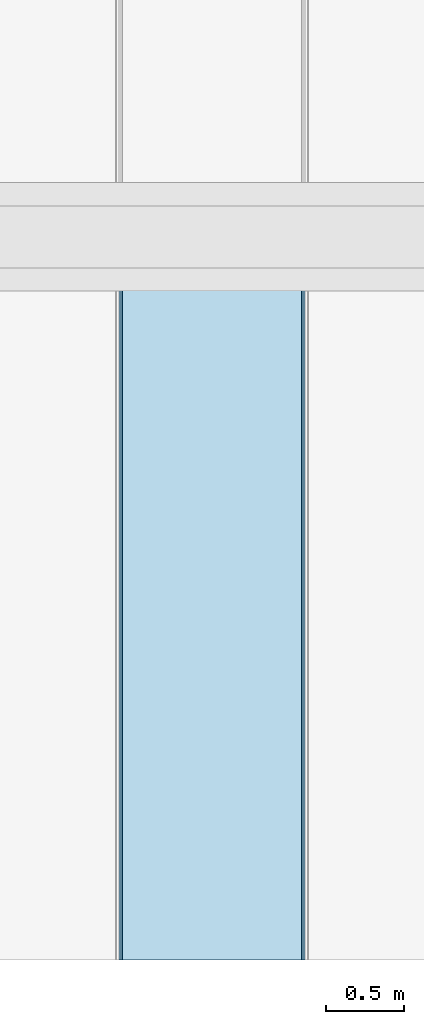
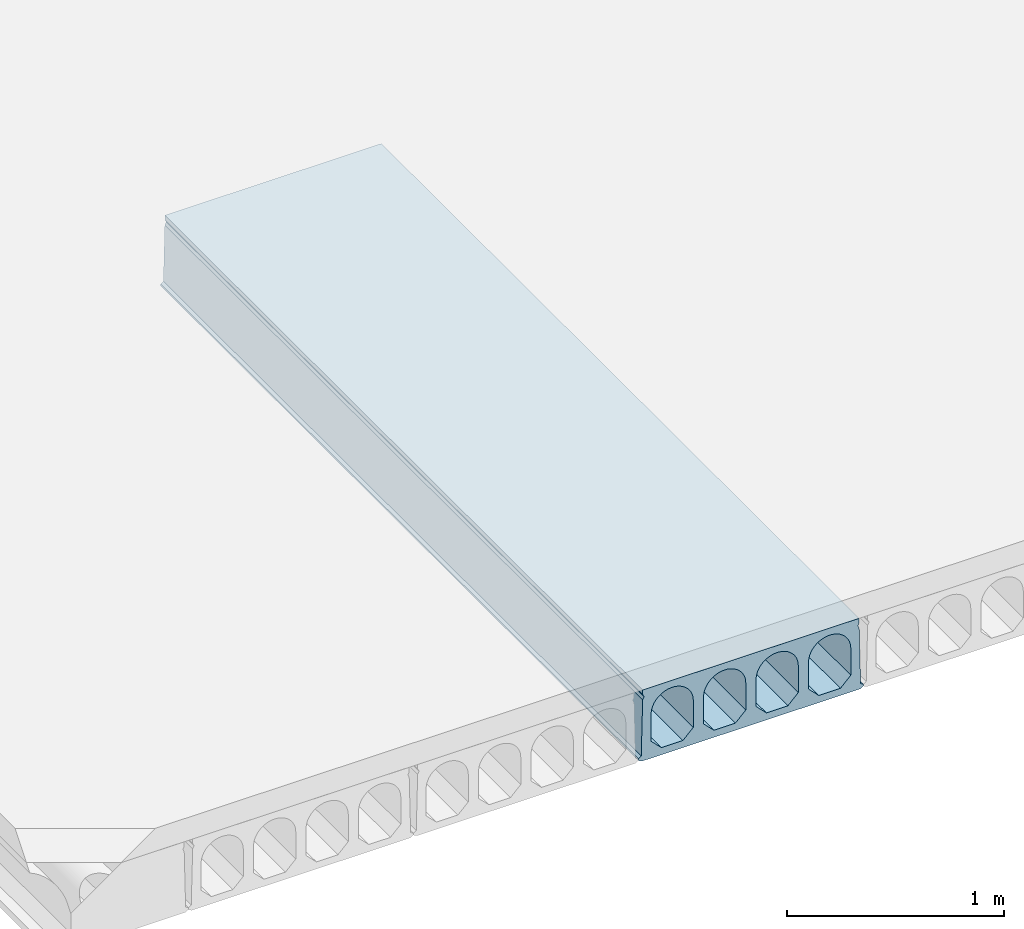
# One storey, part 41 of 98: 1 slab.
"""IFC2X3 building model written with IfcOpenShell, lengths in millimetres."""

import ifcopenshell
import ifcopenshell.guid

model = None  # the IFC model being written
_history = None  # IfcOwnerHistory: only IFC2X3 demands one
_inside = {}  # id of a spatial element -> (the spatial element, [elements in it])
_under = {}  # id of a project, library or spatial element -> (it, [spatial elements below it])
_declared = {}  # id of a project -> (the project, [libraries it declares])
_typed = {}  # id of a type object -> (the type object, [elements of that type])
_made_of = {}  # id of a material, layer set ... -> (it, [elements and type objects made of it])


def new_model(schema):
    """Start an empty IFC model of exactly this schema.

    Asked for "IFC4X3", IfcOpenShell would pick the latest addendum, in which some entities
    have other attributes; the version numbers below select the first issue.
    IFC2X3 requires an IfcOwnerHistory on every rooted entity: one is made here for all.
    """
    global model, _history
    if schema == "IFC4X3":
        model = ifcopenshell.file(schema_version=(4, 3, 0, 0))
    else:
        model = ifcopenshell.file(schema=schema)
    _inside.clear()
    _under.clear()
    _declared.clear()
    _typed.clear()
    _made_of.clear()
    _history = None
    if model.schema == "IFC2X3":
        org = make("IfcOrganization", Name="unknown")
        user = make(
            "IfcPersonAndOrganization",
            ThePerson=make("IfcPerson", FamilyName="unknown"),
            TheOrganization=org,
        )
        app = make(
            "IfcApplication",
            ApplicationDeveloper=org,
            Version="unknown",
            ApplicationFullName="unknown",
            ApplicationIdentifier="unknown",
        )
        _history = make(
            "IfcOwnerHistory",
            OwningUser=user,
            OwningApplication=app,
            ChangeAction="ADDED",
            CreationDate=0,
        )
    return model


def make(cls, **values):
    """One entity of the class cls with the attributes given. An attribute that is None is left unset."""
    return model.create_entity(
        cls, **{name: value for name, value in values.items() if value is not None}
    )


def entity(cls, *values):
    """Any entity or typed value of the class cls, its attributes in the order of the schema. None: left unset."""
    e = model.create_entity(cls)
    for i, value in enumerate(values):
        if value is not None:
            e[i] = value
    return e


def rooted(cls, **values):
    """An entity with a GlobalId (a new one), such as an element, a storey or a relation."""
    return make(cls, GlobalId=ifcopenshell.guid.new(), OwnerHistory=_history, **values)


def si_unit(unit_type, name, prefix=None):
    """IfcSIUnit, for example si_unit("LENGTHUNIT", "METRE", prefix="MILLI")."""
    return make("IfcSIUnit", UnitType=unit_type, Prefix=prefix, Name=name)


def converted_unit(unit_type, name, factor, base, dimensions=None, offset=None):
    """IfcConversionBasedUnit, such as the inch: factor (a typed value) times the base unit."""
    return make(
        "IfcConversionBasedUnit"
        if offset is None
        else "IfcConversionBasedUnitWithOffset",
        ConversionOffset=offset,
        Dimensions=None
        if dimensions is None
        else entity("IfcDimensionalExponents", *dimensions),
        UnitType=unit_type,
        Name=name,
        ConversionFactor=make(
            "IfcMeasureWithUnit", ValueComponent=factor, UnitComponent=base
        ),
    )


def derived_unit(unit_type, elements):
    """IfcDerivedUnit: a product of units, each with its exponent."""
    return make(
        "IfcDerivedUnit",
        Elements=[
            make("IfcDerivedUnitElement", Unit=unit, Exponent=power)
            for unit, power in elements
        ],
        UnitType=unit_type,
    )


def assignment(units):
    """IfcUnitAssignment: the units of a project."""
    return None if units is None else make("IfcUnitAssignment", Units=units)


def point(xyz):
    """IfcCartesianPoint."""
    return None if xyz is None else make("IfcCartesianPoint", Coordinates=xyz)


def direction(xyz):
    """IfcDirection."""
    return None if xyz is None else make("IfcDirection", DirectionRatios=xyz)


def frame(location, z_axis=None, x_axis=None):
    """IfcAxis2Placement3D, a coordinate frame: its origin and axes. An axis left out is left unset."""
    return make(
        "IfcAxis2Placement3D",
        Location=point(location),
        Axis=direction(z_axis),
        RefDirection=direction(x_axis),
    )


def origin_with_axes():
    """The frame at (0, 0, 0) with the z axis (0, 0, 1) and the x axis (1, 0, 0) written out."""
    return frame((0.0, 0.0, 0.0), z_axis=(0.0, 0.0, 1.0), x_axis=(1.0, 0.0, 0.0))


def place(relative_to, where):
    """IfcLocalPlacement: puts the frame where relative to a parent placement (None: the world)."""
    return make(
        "IfcLocalPlacement", PlacementRelTo=relative_to, RelativePlacement=where
    )


def context(
    kind, dimensions, precision=None, world=None, true_north=None, identifier=None
):
    """IfcGeometricRepresentationContext, for example the 3D "Model" context."""
    return make(
        "IfcGeometricRepresentationContext",
        ContextIdentifier=identifier,
        ContextType=kind,
        CoordinateSpaceDimension=dimensions,
        Precision=precision,
        WorldCoordinateSystem=world,
        TrueNorth=true_north,
    )


def subcontext(parent, identifier, kind, view, scale=None):
    """IfcGeometricRepresentationSubContext, for example "Body" below "Model"."""
    return make(
        "IfcGeometricRepresentationSubContext",
        ContextIdentifier=identifier,
        ContextType=kind,
        ParentContext=parent,
        TargetScale=scale,
        TargetView=view,
    )


def project(units=None, contexts=None):
    """IfcProject with its units and contexts."""
    return rooted(
        "IfcProject",
        Name="project",
        RepresentationContexts=contexts,
        UnitsInContext=assignment(units),
    )


def spatial(cls, under=None, at=None, **own):
    """A site, building, storey or space (cls), placed at a placement, below another one or the project."""
    s = rooted(cls, ObjectPlacement=at, **own)
    if under is not None:
        _under.setdefault(under.id(), (under, []))[1].append(s)
    return s


def faces_of(points, faces, orient=None, outer=None):
    """IfcFace entities. A face is a list of loops; a loop is a list of indices into points, from 0.

    orient and outer hold one flag for each loop. By default every Orientation is true, the
    first loop of a face is its IfcFaceOuterBound and the others are IfcFaceBound.
    """
    made = []
    for i, loops in enumerate(faces):
        bounds = []
        for j, loop in enumerate(loops):
            is_outer = j == 0 if outer is None else outer[i][j]
            bounds.append(
                make(
                    "IfcFaceOuterBound" if is_outer else "IfcFaceBound",
                    Bound=make("IfcPolyLoop", Polygon=[points[k] for k in loop]),
                    Orientation=True if orient is None else orient[i][j],
                )
            )
        made.append(make("IfcFace", Bounds=bounds))
    return made


def faceted_brep(points, faces, orient=None, outer=None, voids=None):
    """IfcFacetedBrep: a solid bounded by flat faces; with voids (closed shells), ...WithVoids."""
    shared = [point(p) for p in points]
    hull = make("IfcClosedShell", CfsFaces=faces_of(shared, faces, orient, outer))
    if voids is None:
        return make("IfcFacetedBrep", Outer=hull)
    return make(
        "IfcFacetedBrepWithVoids",
        Outer=hull,
        Voids=[
            make(cls, CfsFaces=faces_of(shared, fs, o, b)) for cls, fs, o, b in voids
        ],
    )


def shape(context_of_items, identifier, shape_type, items):
    """IfcShapeRepresentation: the items that make up one representation, for example the "Body"."""
    return make(
        "IfcShapeRepresentation",
        ContextOfItems=context_of_items,
        RepresentationIdentifier=identifier,
        RepresentationType=shape_type,
        Items=items,
    )


def made_of(thing, what):
    """Note that an element or type object is made of a material, layer set ...; save() writes the relation."""
    if what is not None:
        _made_of.setdefault(what.id(), (what, []))[1].append(thing)
    return thing


def type_object(cls, material=None, **own):
    """A type object (cls), such as IfcWallType, which elements share."""
    return made_of(rooted(cls, **own), material)


def element(
    cls,
    number,
    at=None,
    inside=None,
    cuts=None,
    type_object=None,
    material=None,
    context=None,
    identifier="Body",
    shape_type=None,
    held_by="IfcProductDefinitionShape",
    body=None,
    shapes=None,
    **own,
):
    """One element of the class cls, such as IfcWall. Its Tag is "e" and its number.

    at: its placement. inside: the storey or other place that contains it. cuts: it is an
    opening in that element (IfcRelVoidsElement). A single representation is given by context,
    identifier, shape_type and body (its items); several are given by shapes. held_by: the class
    of the entity that holds the representations. save() writes the other relations.
    """
    e = rooted(cls, Tag="e%d" % number, ObjectPlacement=at, **own)
    if body is not None:
        shapes = [shape(context, identifier, shape_type, body)]
    if shapes is not None:
        e.Representation = make(held_by, Representations=shapes)
    if inside is not None:
        _inside.setdefault(inside.id(), (inside, []))[1].append(e)
    if cuts is not None:
        rooted(
            "IfcRelVoidsElement", RelatingBuildingElement=cuts, RelatedOpeningElement=e
        )
    if type_object is not None:
        _typed.setdefault(type_object.id(), (type_object, []))[1].append(e)
    return made_of(e, material)


def aggregate(whole, parts):
    """IfcRelAggregates: a whole, such as a stair, and the parts it consists of."""
    return rooted("IfcRelAggregates", RelatingObject=whole, RelatedObjects=parts)


def save(model, path):
    """Write the relations noted so far, then the file.

    IfcRelAggregates (storeys below a building ...), IfcRelContainedInSpatialStructure (elements
    in a storey), IfcRelDefinesByType, IfcRelAssociatesMaterial and IfcRelDeclares: one each for
    every whole, place, type object, material and project.
    """
    for whole, parts in _under.values():
        aggregate(whole, parts)
    for where, things in _inside.values():
        rooted(
            "IfcRelContainedInSpatialStructure",
            RelatedElements=things,
            RelatingStructure=where,
        )
    for kind, things in _typed.values():
        rooted("IfcRelDefinesByType", RelatedObjects=things, RelatingType=kind)
    for what, things in _made_of.values():
        rooted("IfcRelAssociatesMaterial", RelatedObjects=things, RelatingMaterial=what)
    for by, libraries in _declared.values():
        rooted("IfcRelDeclares", RelatingContext=by, RelatedDefinitions=libraries)
    model.write(path)


model = new_model("IFC2X3")

# Units and contexts
model_context = context("Model", 3, precision=0.01, world=frame((0.0, 4.29681676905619e-09, 0.0)), true_north=direction((4.01073788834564e-13, 1.0)))
plan_context = context("Plan", 3, precision=0.01, world=frame((0.0, 4.29681676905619e-09, 0.0)), true_north=direction((4.01073788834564e-13, 1.0)))
body_context = subcontext(model_context, "Body", "Model", "MODEL_VIEW")
ifc_project = project(units=[converted_unit("PLANEANGLEUNIT", "DEGREE", entity("IfcPositiveLengthMeasure", 0.0174532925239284), si_unit("PLANEANGLEUNIT", "RADIAN"), dimensions=[0, 0, 0, 0, 0, 0, 0]), si_unit("AREAUNIT", "SQUARE_METRE"), si_unit("LENGTHUNIT", "METRE", prefix="MILLI"), si_unit("MASSUNIT", "GRAM", prefix="KILO"), si_unit("POWERUNIT", "WATT"), si_unit("PRESSUREUNIT", "PASCAL"), si_unit("FORCEUNIT", "NEWTON", prefix="KILO"), si_unit("ELECTRICCURRENTUNIT", "AMPERE"), si_unit("THERMODYNAMICTEMPERATUREUNIT", "DEGREE_CELSIUS"), si_unit("TIMEUNIT", "SECOND"), si_unit("VOLUMEUNIT", "CUBIC_METRE"), derived_unit("LINEARVELOCITYUNIT", [(si_unit("LENGTHUNIT", "METRE"), 1), (si_unit("TIMEUNIT", "SECOND"), -1)]), derived_unit("VOLUMETRICFLOWRATEUNIT", [(si_unit("VOLUMEUNIT", "CUBIC_METRE"), 1), (si_unit("TIMEUNIT", "SECOND"), -1)]), derived_unit("THERMALTRANSMITTANCEUNIT", [(si_unit("POWERUNIT", "WATT"), 1), (si_unit("THERMODYNAMICTEMPERATUREUNIT", "KELVIN"), -1), (si_unit("AREAUNIT", "SQUARE_METRE"), -1)])], contexts=[model_context, plan_context])

# Site, building, storey
site_placement = place(None, frame((0.0, -4.29681676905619e-09, 0.0), z_axis=(0.0, 0.0, 1.0), x_axis=(1.0, 0.0, 0.0)))
site = spatial("IfcSite", under=ifc_project, at=site_placement, Name="Gardermoen", CompositionType="ELEMENT")
building_placement = place(site_placement, frame((0.0, 4.29681676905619e-09, 0.0), z_axis=(0.0, 0.0, 1.0), x_axis=(1.0, 0.0, 0.0)))
building = spatial("IfcBuilding", under=site, at=building_placement, Name="TS", CompositionType="ELEMENT")
storey_placement = place(building_placement, origin_with_axes())
storey = spatial("IfcBuildingStorey", under=building, at=storey_placement, Name="D", CompositionType="ELEMENT", Elevation=0.0)

# Slab
slab_type = type_object("IfcSlabType", Name="HD400", PredefinedType="NOTDEFINED")
slab_placement = place(storey_placement, frame((517599.999766, 396739.995625, 203600.0), z_axis=(0.0, 0.0, 1.0), x_axis=(0.0, 1.0, 0.0)))
element("IfcSlab", 1, at=slab_placement, inside=storey, type_object=slab_type, Name="HULLDEKKE", ObjectType="HD400", PredefinedType="FLOOR", context=body_context, shape_type="Brep", body=[
    faceted_brep([(4105.68103395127, 600.0, -180.0), (4105.68103395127, 600.0, -190.0), (8520.0, 600.0, -190.0), (8520.0, 600.0, -180.0), (4105.68103395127, 585.0, -170.0), (8520.0, 585.0, -170.0), (4105.68103395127, 577.5, 145.0), (8520.0, 577.5, 145.0), (4105.68103395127, 570.0, 160.0), (8520.0, 570.0, 160.0), (4105.68103395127, 577.5, 175.0), (8520.0, 577.5, 175.0), (4105.68103395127, 577.5, 200.0), (8520.0, 577.5, 200.0), (4105.68103395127, -577.5, 200.0), (8520.0, -577.5, 200.0), (4105.68103395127, -577.5, 175.0), (8520.0, -577.5, 175.0), (4105.68103395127, -570.0, 160.0), (8520.0, -570.0, 160.0), (4105.68103395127, -577.5, 145.0), (8520.0, -577.5, 145.0), (4105.68103395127, -585.0, -170.0), (8520.0, -585.0, -170.0), (4105.68103395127, -600.0, -180.0), (8520.0, -600.0, -180.0), (4105.68103395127, -600.0, -190.0), (8520.0, -600.0, -190.0), (4105.68103395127, -583.380004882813, -200.0), (8520.0, -583.380004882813, -200.0), (4105.68103395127, 583.380004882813, -200.0), (8520.0, 583.380004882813, -200.0), (4105.68103395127, -477.5, -160.0), (4105.68103395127, -362.5, -160.0), (8520.0, -362.5, -160.0), (8520.0, -477.5, -160.0), (4105.68103395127, -532.5, -105.0), (8520.0, -532.5, -105.0), (4105.68103395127, -532.5, 47.5), (8520.0, -532.5, 47.5), (4105.68103395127, -532.115755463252, 56.7901763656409), (8520.0, -532.115755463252, 56.7901763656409), (4105.68103395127, -530.965646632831, 66.0168914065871), (8520.0, -530.965646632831, 66.0168914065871), (4105.68103395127, -529.057529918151, 75.1171173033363), (8520.0, -529.057529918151, 75.1171173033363), (4105.68103395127, -526.404439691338, 84.028690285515), (8520.0, -526.404439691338, 84.028690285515), (4105.68103395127, -523.024499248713, 92.6907352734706), (8520.0, -523.024499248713, 92.6907352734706), (4105.68103395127, -518.940797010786, 101.044081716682), (8520.0, -518.940797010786, 101.044081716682), (4105.68103395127, -514.181228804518, 109.031667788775), (8520.0, -514.181228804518, 109.031667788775), (4105.68103395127, -508.778307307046, 116.598930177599), (8520.0, -508.778307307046, 116.598930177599), (4105.68103395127, -502.768939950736, 123.694176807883), (8520.0, -502.768939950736, 123.694176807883), (4105.68103395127, -496.194176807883, 130.268939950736), (8520.0, -496.194176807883, 130.268939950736), (4105.68103395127, -489.098930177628, 136.278307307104), (8520.0, -489.098930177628, 136.278307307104), (4105.68103395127, -481.531667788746, 141.681228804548), (8520.0, -481.531667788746, 141.681228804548), (4105.68103395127, -473.544081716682, 146.440797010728), (8520.0, -473.544081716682, 146.440797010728), (4105.68103395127, -465.190735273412, 150.524499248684), (8520.0, -465.190735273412, 150.524499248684), (4105.68103395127, -456.528690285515, 153.904439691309), (8520.0, -456.528690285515, 153.904439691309), (4105.68103395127, -447.617117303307, 156.55752991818), (8520.0, -447.617117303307, 156.55752991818), (4105.68103395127, -438.516891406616, 158.465646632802), (8520.0, -438.516891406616, 158.465646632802), (4105.68103395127, -429.290176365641, 159.615755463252), (8520.0, -429.290176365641, 159.615755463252), (4105.68103395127, -420.0, 160.0), (8520.0, -420.0, 160.0), (4105.68103395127, -410.709823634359, 159.615755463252), (8520.0, -410.709823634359, 159.615755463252), (4105.68103395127, -401.483108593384, 158.465646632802), (8520.0, -401.483108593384, 158.465646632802), (4105.68103395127, -392.382882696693, 156.55752991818), (8520.0, -392.382882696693, 156.55752991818), (4105.68103395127, -383.471309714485, 153.904439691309), (8520.0, -383.471309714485, 153.904439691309), (4105.68103395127, -374.809264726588, 150.524499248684), (8520.0, -374.809264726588, 150.524499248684), (4105.68103395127, -366.455918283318, 146.440797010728), (8520.0, -366.455918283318, 146.440797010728), (4105.68103395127, -358.468332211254, 141.681228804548), (8520.0, -358.468332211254, 141.681228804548), (4105.68103395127, -350.901069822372, 136.278307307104), (8520.0, -350.901069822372, 136.278307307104), (4105.68103395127, -343.805823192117, 130.268939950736), (8520.0, -343.805823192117, 130.268939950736), (4105.68103395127, -337.231060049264, 123.694176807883), (8520.0, -337.231060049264, 123.694176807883), (4105.68103395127, -331.221692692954, 116.598930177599), (8520.0, -331.221692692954, 116.598930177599), (4105.68103395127, -325.818771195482, 109.031667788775), (8520.0, -325.818771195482, 109.031667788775), (4105.68103395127, -321.059202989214, 101.044081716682), (8520.0, -321.059202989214, 101.044081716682), (4105.68103395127, -316.975500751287, 92.6907352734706), (8520.0, -316.975500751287, 92.6907352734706), (4105.68103395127, -313.595560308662, 84.028690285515), (8520.0, -313.595560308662, 84.028690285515), (4105.68103395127, -310.942470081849, 75.1171173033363), (8520.0, -310.942470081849, 75.1171173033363), (4105.68103395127, -309.034353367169, 66.0168914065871), (8520.0, -309.034353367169, 66.0168914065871), (4105.68103395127, -307.884244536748, 56.7901763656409), (8520.0, -307.884244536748, 56.7901763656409), (4105.68103395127, -307.5, 47.5), (8520.0, -307.5, 47.5), (4105.68103395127, -307.5, -105.0), (8520.0, -307.5, -105.0), (4105.68103395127, -197.5, -160.0), (4105.68103395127, -82.5, -160.0), (8520.0, -82.5, -160.0), (8520.0, -197.5, -160.0), (4105.68103395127, -252.5, -105.0), (8520.0, -252.5, -105.0), (4105.68103395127, -252.5, 47.5), (8520.0, -252.5, 47.5), (4105.68103395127, -252.115755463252, 56.7901763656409), (8520.0, -252.115755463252, 56.7901763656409), (4105.68103395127, -250.965646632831, 66.0168914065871), (8520.0, -250.965646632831, 66.0168914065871), (4105.68103395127, -249.057529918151, 75.1171173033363), (8520.0, -249.057529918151, 75.1171173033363), (4105.68103395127, -246.404439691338, 84.028690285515), (8520.0, -246.404439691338, 84.028690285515), (4105.68103395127, -243.024499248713, 92.6907352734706), (8520.0, -243.024499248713, 92.6907352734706), (4105.68103395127, -238.940797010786, 101.044081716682), (8520.0, -238.940797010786, 101.044081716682), (4105.68103395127, -234.181228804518, 109.031667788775), (8520.0, -234.181228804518, 109.031667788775), (4105.68103395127, -228.778307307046, 116.598930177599), (8520.0, -228.778307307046, 116.598930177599), (4105.68103395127, -222.768939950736, 123.694176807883), (8520.0, -222.768939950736, 123.694176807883), (4105.68103395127, -216.194176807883, 130.268939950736), (8520.0, -216.194176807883, 130.268939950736), (4105.68103395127, -209.098930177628, 136.278307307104), (8520.0, -209.098930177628, 136.278307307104), (4105.68103395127, -201.531667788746, 141.681228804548), (8520.0, -201.531667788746, 141.681228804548), (4105.68103395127, -193.544081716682, 146.440797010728), (8520.0, -193.544081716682, 146.440797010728), (4105.68103395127, -185.190735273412, 150.524499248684), (8520.0, -185.190735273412, 150.524499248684), (4105.68103395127, -176.528690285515, 153.904439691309), (8520.0, -176.528690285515, 153.904439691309), (4105.68103395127, -167.617117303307, 156.55752991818), (8520.0, -167.617117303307, 156.55752991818), (4105.68103395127, -158.516891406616, 158.465646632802), (8520.0, -158.516891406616, 158.465646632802), (4105.68103395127, -149.290176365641, 159.615755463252), (8520.0, -149.290176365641, 159.615755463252), (4105.68103395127, -140.0, 160.0), (8520.0, -140.0, 160.0), (4105.68103395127, -130.709823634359, 159.615755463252), (8520.0, -130.709823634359, 159.615755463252), (4105.68103395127, -121.483108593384, 158.465646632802), (8520.0, -121.483108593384, 158.465646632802), (4105.68103395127, -112.382882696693, 156.55752991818), (8520.0, -112.382882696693, 156.55752991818), (4105.68103395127, -103.471309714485, 153.904439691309), (8520.0, -103.471309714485, 153.904439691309), (4105.68103395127, -94.8092647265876, 150.524499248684), (8520.0, -94.8092647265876, 150.524499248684), (4105.68103395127, -86.4559182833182, 146.440797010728), (8520.0, -86.4559182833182, 146.440797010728), (4105.68103395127, -78.4683322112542, 141.681228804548), (8520.0, -78.4683322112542, 141.681228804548), (4105.68103395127, -70.9010698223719, 136.278307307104), (8520.0, -70.9010698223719, 136.278307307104), (4105.68103395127, -63.8058231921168, 130.268939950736), (8520.0, -63.8058231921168, 130.268939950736), (4105.68103395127, -57.2310600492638, 123.694176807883), (8520.0, -57.2310600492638, 123.694176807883), (4105.68103395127, -51.2216926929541, 116.598930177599), (8520.0, -51.2216926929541, 116.598930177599), (4105.68103395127, -45.8187711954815, 109.031667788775), (8520.0, -45.8187711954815, 109.031667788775), (4105.68103395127, -41.0592029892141, 101.044081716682), (8520.0, -41.0592029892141, 101.044081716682), (4105.68103395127, -36.9755007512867, 92.6907352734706), (8520.0, -36.9755007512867, 92.6907352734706), (4105.68103395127, -33.5955603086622, 84.028690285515), (8520.0, -33.5955603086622, 84.028690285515), (4105.68103395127, -30.942470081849, 75.1171173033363), (8520.0, -30.942470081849, 75.1171173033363), (4105.68103395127, -29.0343533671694, 66.0168914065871), (8520.0, -29.0343533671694, 66.0168914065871), (4105.68103395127, -27.8842445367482, 56.7901763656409), (8520.0, -27.8842445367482, 56.7901763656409), (4105.68103395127, -27.5, 47.5), (8520.0, -27.5, 47.5), (4105.68103395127, -27.5, -105.0), (8520.0, -27.5, -105.0), (4105.68103395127, 82.5, -160.0), (4105.68103395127, 197.5, -160.0), (8520.0, 197.5, -160.0), (8520.0, 82.5, -160.0), (4105.68103395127, 27.5, -105.0), (8520.0, 27.5, -105.0), (4105.68103395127, 27.5, 47.5), (8520.0, 27.5, 47.5), (4105.68103395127, 27.8842445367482, 56.7901763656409), (8520.0, 27.8842445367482, 56.7901763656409), (4105.68103395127, 29.0343533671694, 66.0168914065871), (8520.0, 29.0343533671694, 66.0168914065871), (4105.68103395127, 30.942470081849, 75.1171173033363), (8520.0, 30.942470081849, 75.1171173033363), (4105.68103395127, 33.5955603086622, 84.028690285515), (8520.0, 33.5955603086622, 84.028690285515), (4105.68103395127, 36.9755007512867, 92.6907352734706), (8520.0, 36.9755007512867, 92.6907352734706), (4105.68103395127, 41.0592029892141, 101.044081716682), (8520.0, 41.0592029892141, 101.044081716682), (4105.68103395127, 45.8187711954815, 109.031667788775), (8520.0, 45.8187711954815, 109.031667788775), (4105.68103395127, 51.2216926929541, 116.598930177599), (8520.0, 51.2216926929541, 116.598930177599), (4105.68103395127, 57.2310600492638, 123.694176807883), (8520.0, 57.2310600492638, 123.694176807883), (4105.68103395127, 63.8058231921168, 130.268939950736), (8520.0, 63.8058231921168, 130.268939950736), (4105.68103395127, 70.9010698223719, 136.278307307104), (8520.0, 70.9010698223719, 136.278307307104), (4105.68103395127, 78.4683322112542, 141.681228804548), (8520.0, 78.4683322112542, 141.681228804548), (4105.68103395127, 86.4559182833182, 146.440797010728), (8520.0, 86.4559182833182, 146.440797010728), (4105.68103395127, 94.8092647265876, 150.524499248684), (8520.0, 94.8092647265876, 150.524499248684), (4105.68103395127, 103.471309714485, 153.904439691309), (8520.0, 103.471309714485, 153.904439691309), (4105.68103395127, 112.382882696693, 156.55752991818), (8520.0, 112.382882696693, 156.55752991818), (4105.68103395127, 121.483108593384, 158.465646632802), (8520.0, 121.483108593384, 158.465646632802), (4105.68103395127, 130.709823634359, 159.615755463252), (8520.0, 130.709823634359, 159.615755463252), (4105.68103395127, 140.0, 160.0), (8520.0, 140.0, 160.0), (4105.68103395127, 149.290176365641, 159.615755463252), (8520.0, 149.290176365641, 159.615755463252), (4105.68103395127, 158.516891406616, 158.465646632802), (8520.0, 158.516891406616, 158.465646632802), (4105.68103395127, 167.617117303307, 156.55752991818), (8520.0, 167.617117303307, 156.55752991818), (4105.68103395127, 176.528690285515, 153.904439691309), (8520.0, 176.528690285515, 153.904439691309), (4105.68103395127, 185.190735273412, 150.524499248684), (8520.0, 185.190735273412, 150.524499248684), (4105.68103395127, 193.544081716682, 146.440797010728), (8520.0, 193.544081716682, 146.440797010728), (4105.68103395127, 201.531667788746, 141.681228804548), (8520.0, 201.531667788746, 141.681228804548), (4105.68103395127, 209.098930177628, 136.278307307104), (8520.0, 209.098930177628, 136.278307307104), (4105.68103395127, 216.194176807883, 130.268939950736), (8520.0, 216.194176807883, 130.268939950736), (4105.68103395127, 222.768939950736, 123.694176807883), (8520.0, 222.768939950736, 123.694176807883), (4105.68103395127, 228.778307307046, 116.598930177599), (8520.0, 228.778307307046, 116.598930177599), (4105.68103395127, 234.181228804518, 109.031667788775), (8520.0, 234.181228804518, 109.031667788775), (4105.68103395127, 238.940797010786, 101.044081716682), (8520.0, 238.940797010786, 101.044081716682), (4105.68103395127, 243.024499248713, 92.6907352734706), (8520.0, 243.024499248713, 92.6907352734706), (4105.68103395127, 246.404439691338, 84.028690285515), (8520.0, 246.404439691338, 84.028690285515), (4105.68103395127, 249.057529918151, 75.1171173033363), (8520.0, 249.057529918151, 75.1171173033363), (4105.68103395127, 250.965646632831, 66.0168914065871), (8520.0, 250.965646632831, 66.0168914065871), (4105.68103395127, 252.115755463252, 56.7901763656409), (8520.0, 252.115755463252, 56.7901763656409), (4105.68103395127, 252.5, 47.5), (8520.0, 252.5, 47.5), (4105.68103395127, 252.5, -105.0), (8520.0, 252.5, -105.0), (4105.68103395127, 362.5, -160.0), (4105.68103395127, 477.5, -160.0), (8520.0, 477.5, -160.0), (8520.0, 362.5, -160.0), (4105.68103395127, 307.5, -105.0), (8520.0, 307.5, -105.0), (4105.68103395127, 307.5, 47.5), (8520.0, 307.5, 47.5), (4105.68103395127, 307.884244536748, 56.7901763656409), (8520.0, 307.884244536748, 56.7901763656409), (4105.68103395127, 309.034353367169, 66.0168914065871), (8520.0, 309.034353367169, 66.0168914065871), (4105.68103395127, 310.942470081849, 75.1171173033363), (8520.0, 310.942470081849, 75.1171173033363), (4105.68103395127, 313.595560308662, 84.028690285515), (8520.0, 313.595560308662, 84.028690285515), (4105.68103395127, 316.975500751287, 92.6907352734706), (8520.0, 316.975500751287, 92.6907352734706), (4105.68103395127, 321.059202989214, 101.044081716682), (8520.0, 321.059202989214, 101.044081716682), (4105.68103395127, 325.818771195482, 109.031667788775), (8520.0, 325.818771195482, 109.031667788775), (4105.68103395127, 331.221692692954, 116.598930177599), (8520.0, 331.221692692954, 116.598930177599), (4105.68103395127, 337.231060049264, 123.694176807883), (8520.0, 337.231060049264, 123.694176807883), (4105.68103395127, 343.805823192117, 130.268939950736), (8520.0, 343.805823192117, 130.268939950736), (4105.68103395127, 350.901069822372, 136.278307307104), (8520.0, 350.901069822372, 136.278307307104), (4105.68103395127, 358.468332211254, 141.681228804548), (8520.0, 358.468332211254, 141.681228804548), (4105.68103395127, 366.455918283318, 146.440797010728), (8520.0, 366.455918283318, 146.440797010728), (4105.68103395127, 374.809264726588, 150.524499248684), (8520.0, 374.809264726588, 150.524499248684), (4105.68103395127, 383.471309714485, 153.904439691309), (8520.0, 383.471309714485, 153.904439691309), (4105.68103395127, 392.382882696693, 156.55752991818), (8520.0, 392.382882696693, 156.55752991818), (4105.68103395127, 401.483108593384, 158.465646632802), (8520.0, 401.483108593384, 158.465646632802), (4105.68103395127, 410.709823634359, 159.615755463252), (8520.0, 410.709823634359, 159.615755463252), (4105.68103395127, 420.0, 160.0), (8520.0, 420.0, 160.0), (4105.68103395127, 429.290176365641, 159.615755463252), (8520.0, 429.290176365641, 159.615755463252), (4105.68103395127, 438.516891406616, 158.465646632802), (8520.0, 438.516891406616, 158.465646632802), (4105.68103395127, 447.617117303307, 156.55752991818), (8520.0, 447.617117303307, 156.55752991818), (4105.68103395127, 456.528690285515, 153.904439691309), (8520.0, 456.528690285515, 153.904439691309), (4105.68103395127, 465.190735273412, 150.524499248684), (8520.0, 465.190735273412, 150.524499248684), (4105.68103395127, 473.544081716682, 146.440797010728), (8520.0, 473.544081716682, 146.440797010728), (4105.68103395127, 481.531667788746, 141.681228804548), (8520.0, 481.531667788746, 141.681228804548), (4105.68103395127, 489.098930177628, 136.278307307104), (8520.0, 489.098930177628, 136.278307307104), (4105.68103395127, 496.194176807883, 130.268939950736), (8520.0, 496.194176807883, 130.268939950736), (4105.68103395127, 502.768939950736, 123.694176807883), (8520.0, 502.768939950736, 123.694176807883), (4105.68103395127, 508.778307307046, 116.598930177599), (8520.0, 508.778307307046, 116.598930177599), (4105.68103395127, 514.181228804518, 109.031667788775), (8520.0, 514.181228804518, 109.031667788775), (4105.68103395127, 518.940797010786, 101.044081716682), (8520.0, 518.940797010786, 101.044081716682), (4105.68103395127, 523.024499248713, 92.6907352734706), (8520.0, 523.024499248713, 92.6907352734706), (4105.68103395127, 526.404439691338, 84.028690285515), (8520.0, 526.404439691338, 84.028690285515), (4105.68103395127, 529.057529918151, 75.1171173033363), (8520.0, 529.057529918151, 75.1171173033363), (4105.68103395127, 530.965646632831, 66.0168914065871), (8520.0, 530.965646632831, 66.0168914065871), (4105.68103395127, 532.115755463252, 56.7901763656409), (8520.0, 532.115755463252, 56.7901763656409), (4105.68103395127, 532.5, 47.5), (8520.0, 532.5, 47.5), (4105.68103395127, 532.5, -105.0), (8520.0, 532.5, -105.0)], [[[0, 1, 2, 3]], [[4, 0, 3, 5]], [[6, 4, 5, 7]], [[8, 6, 7, 9]], [[10, 8, 9, 11]], [[12, 10, 11, 13]], [[14, 12, 13, 15]], [[16, 14, 15, 17]], [[18, 16, 17, 19]], [[20, 18, 19, 21]], [[22, 20, 21, 23]], [[24, 22, 23, 25]], [[26, 24, 25, 27]], [[28, 26, 27, 29]], [[30, 28, 29, 31]], [[1, 30, 31, 2]], [[32, 33, 34, 35]], [[36, 32, 35, 37]], [[38, 36, 37, 39]], [[40, 38, 39, 41]], [[42, 40, 41, 43]], [[44, 42, 43, 45]], [[46, 44, 45, 47]], [[48, 46, 47, 49]], [[50, 48, 49, 51]], [[52, 50, 51, 53]], [[54, 52, 53, 55]], [[56, 54, 55, 57]], [[58, 56, 57, 59]], [[60, 58, 59, 61]], [[62, 60, 61, 63]], [[64, 62, 63, 65]], [[66, 64, 65, 67]], [[68, 66, 67, 69]], [[70, 68, 69, 71]], [[72, 70, 71, 73]], [[74, 72, 73, 75]], [[76, 74, 75, 77]], [[78, 76, 77, 79]], [[80, 78, 79, 81]], [[82, 80, 81, 83]], [[84, 82, 83, 85]], [[86, 84, 85, 87]], [[88, 86, 87, 89]], [[90, 88, 89, 91]], [[92, 90, 91, 93]], [[94, 92, 93, 95]], [[96, 94, 95, 97]], [[98, 96, 97, 99]], [[100, 98, 99, 101]], [[102, 100, 101, 103]], [[104, 102, 103, 105]], [[106, 104, 105, 107]], [[108, 106, 107, 109]], [[110, 108, 109, 111]], [[112, 110, 111, 113]], [[114, 112, 113, 115]], [[116, 114, 115, 117]], [[33, 116, 117, 34]], [[118, 119, 120, 121]], [[122, 118, 121, 123]], [[124, 122, 123, 125]], [[126, 124, 125, 127]], [[128, 126, 127, 129]], [[130, 128, 129, 131]], [[132, 130, 131, 133]], [[134, 132, 133, 135]], [[136, 134, 135, 137]], [[138, 136, 137, 139]], [[140, 138, 139, 141]], [[142, 140, 141, 143]], [[144, 142, 143, 145]], [[146, 144, 145, 147]], [[148, 146, 147, 149]], [[150, 148, 149, 151]], [[152, 150, 151, 153]], [[154, 152, 153, 155]], [[156, 154, 155, 157]], [[158, 156, 157, 159]], [[160, 158, 159, 161]], [[162, 160, 161, 163]], [[164, 162, 163, 165]], [[166, 164, 165, 167]], [[168, 166, 167, 169]], [[170, 168, 169, 171]], [[172, 170, 171, 173]], [[174, 172, 173, 175]], [[176, 174, 175, 177]], [[178, 176, 177, 179]], [[180, 178, 179, 181]], [[182, 180, 181, 183]], [[184, 182, 183, 185]], [[186, 184, 185, 187]], [[188, 186, 187, 189]], [[190, 188, 189, 191]], [[192, 190, 191, 193]], [[194, 192, 193, 195]], [[196, 194, 195, 197]], [[198, 196, 197, 199]], [[200, 198, 199, 201]], [[202, 200, 201, 203]], [[119, 202, 203, 120]], [[204, 205, 206, 207]], [[208, 204, 207, 209]], [[210, 208, 209, 211]], [[212, 210, 211, 213]], [[214, 212, 213, 215]], [[216, 214, 215, 217]], [[218, 216, 217, 219]], [[220, 218, 219, 221]], [[222, 220, 221, 223]], [[224, 222, 223, 225]], [[226, 224, 225, 227]], [[228, 226, 227, 229]], [[230, 228, 229, 231]], [[232, 230, 231, 233]], [[234, 232, 233, 235]], [[236, 234, 235, 237]], [[238, 236, 237, 239]], [[240, 238, 239, 241]], [[242, 240, 241, 243]], [[244, 242, 243, 245]], [[246, 244, 245, 247]], [[248, 246, 247, 249]], [[250, 248, 249, 251]], [[252, 250, 251, 253]], [[254, 252, 253, 255]], [[256, 254, 255, 257]], [[258, 256, 257, 259]], [[260, 258, 259, 261]], [[262, 260, 261, 263]], [[264, 262, 263, 265]], [[266, 264, 265, 267]], [[268, 266, 267, 269]], [[270, 268, 269, 271]], [[272, 270, 271, 273]], [[274, 272, 273, 275]], [[276, 274, 275, 277]], [[278, 276, 277, 279]], [[280, 278, 279, 281]], [[282, 280, 281, 283]], [[284, 282, 283, 285]], [[286, 284, 285, 287]], [[288, 286, 287, 289]], [[205, 288, 289, 206]], [[290, 291, 292, 293]], [[294, 290, 293, 295]], [[296, 294, 295, 297]], [[298, 296, 297, 299]], [[300, 298, 299, 301]], [[302, 300, 301, 303]], [[304, 302, 303, 305]], [[306, 304, 305, 307]], [[308, 306, 307, 309]], [[310, 308, 309, 311]], [[312, 310, 311, 313]], [[314, 312, 313, 315]], [[316, 314, 315, 317]], [[318, 316, 317, 319]], [[320, 318, 319, 321]], [[322, 320, 321, 323]], [[324, 322, 323, 325]], [[326, 324, 325, 327]], [[328, 326, 327, 329]], [[330, 328, 329, 331]], [[332, 330, 331, 333]], [[334, 332, 333, 335]], [[336, 334, 335, 337]], [[338, 336, 337, 339]], [[340, 338, 339, 341]], [[342, 340, 341, 343]], [[344, 342, 343, 345]], [[346, 344, 345, 347]], [[348, 346, 347, 349]], [[350, 348, 349, 351]], [[352, 350, 351, 353]], [[354, 352, 353, 355]], [[356, 354, 355, 357]], [[358, 356, 357, 359]], [[360, 358, 359, 361]], [[362, 360, 361, 363]], [[364, 362, 363, 365]], [[366, 364, 365, 367]], [[368, 366, 367, 369]], [[370, 368, 369, 371]], [[372, 370, 371, 373]], [[374, 372, 373, 375]], [[291, 374, 375, 292]], [[3, 2, 31, 29, 27, 25, 23, 21, 19, 17, 15, 13, 11, 9, 7, 5], [293, 292, 375, 373, 371, 369, 367, 365, 363, 361, 359, 357, 355, 353, 351, 349, 347, 345, 343, 341, 339, 337, 335, 333, 331, 329, 327, 325, 323, 321, 319, 317, 315, 313, 311, 309, 307, 305, 303, 301, 299, 297, 295], [207, 206, 289, 287, 285, 283, 281, 279, 277, 275, 273, 271, 269, 267, 265, 263, 261, 259, 257, 255, 253, 251, 249, 247, 245, 243, 241, 239, 237, 235, 233, 231, 229, 227, 225, 223, 221, 219, 217, 215, 213, 211, 209], [121, 120, 203, 201, 199, 197, 195, 193, 191, 189, 187, 185, 183, 181, 179, 177, 175, 173, 171, 169, 167, 165, 163, 161, 159, 157, 155, 153, 151, 149, 147, 145, 143, 141, 139, 137, 135, 133, 131, 129, 127, 125, 123], [35, 34, 117, 115, 113, 111, 109, 107, 105, 103, 101, 99, 97, 95, 93, 91, 89, 87, 85, 83, 81, 79, 77, 75, 73, 71, 69, 67, 65, 63, 61, 59, 57, 55, 53, 51, 49, 47, 45, 43, 41, 39, 37]], [[4, 6, 8, 10, 12, 14, 16, 18, 20, 22, 24, 26, 28, 30, 1, 0], [36, 38, 40, 42, 44, 46, 48, 50, 52, 54, 56, 58, 60, 62, 64, 66, 68, 70, 72, 74, 76, 78, 80, 82, 84, 86, 88, 90, 92, 94, 96, 98, 100, 102, 104, 106, 108, 110, 112, 114, 116, 33, 32], [122, 124, 126, 128, 130, 132, 134, 136, 138, 140, 142, 144, 146, 148, 150, 152, 154, 156, 158, 160, 162, 164, 166, 168, 170, 172, 174, 176, 178, 180, 182, 184, 186, 188, 190, 192, 194, 196, 198, 200, 202, 119, 118], [208, 210, 212, 214, 216, 218, 220, 222, 224, 226, 228, 230, 232, 234, 236, 238, 240, 242, 244, 246, 248, 250, 252, 254, 256, 258, 260, 262, 264, 266, 268, 270, 272, 274, 276, 278, 280, 282, 284, 286, 288, 205, 204], [294, 296, 298, 300, 302, 304, 306, 308, 310, 312, 314, 316, 318, 320, 322, 324, 326, 328, 330, 332, 334, 336, 338, 340, 342, 344, 346, 348, 350, 352, 354, 356, 358, 360, 362, 364, 366, 368, 370, 372, 374, 291, 290]]], orient=[[False], [False], [False], [False], [False], [False], [False], [False], [False], [False], [False], [False], [False], [False], [False], [False], [False], [False], [False], [False], [False], [False], [False], [False], [False], [False], [False], [False], [False], [False], [False], [False], [False], [False], [False], [False], [False], [False], [False], [False], [False], [False], [False], [False], [False], [False], [False], [False], [False], [False], [False], [False], [False], [False], [False], [False], [False], [False], [False], [False], [False], [False], [False], [False], [False], [False], [False], [False], [False], [False], [False], [False], [False], [False], [False], [False], [False], [False], [False], [False], [False], [False], [False], [False], [False], [False], [False], [False], [False], [False], [False], [False], [False], [False], [False], [False], [False], [False], [False], [False], [False], [False], [False], [False], [False], [False], [False], [False], [False], [False], [False], [False], [False], [False], [False], [False], [False], [False], [False], [False], [False], [False], [False], [False], [False], [False], [False], [False], [False], [False], [False], [False], [False], [False], [False], [False], [False], [False], [False], [False], [False], [False], [False], [False], [False], [False], [False], [False], [False], [False], [False], [False], [False], [False], [False], [False], [False], [False], [False], [False], [False], [False], [False], [False], [False], [False], [False], [False], [False], [False], [False], [False], [False], [False], [False], [False], [False], [False], [False], [False], [False], [False], [False], [False], [False], [False], [False], [False], [False, False, False, False, False], [False, False, False, False, False]]),
])

save(model, "model.ifc")
